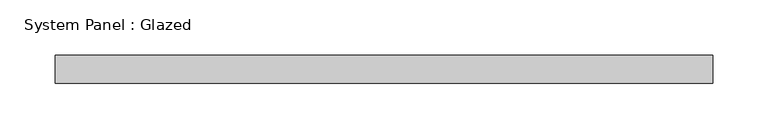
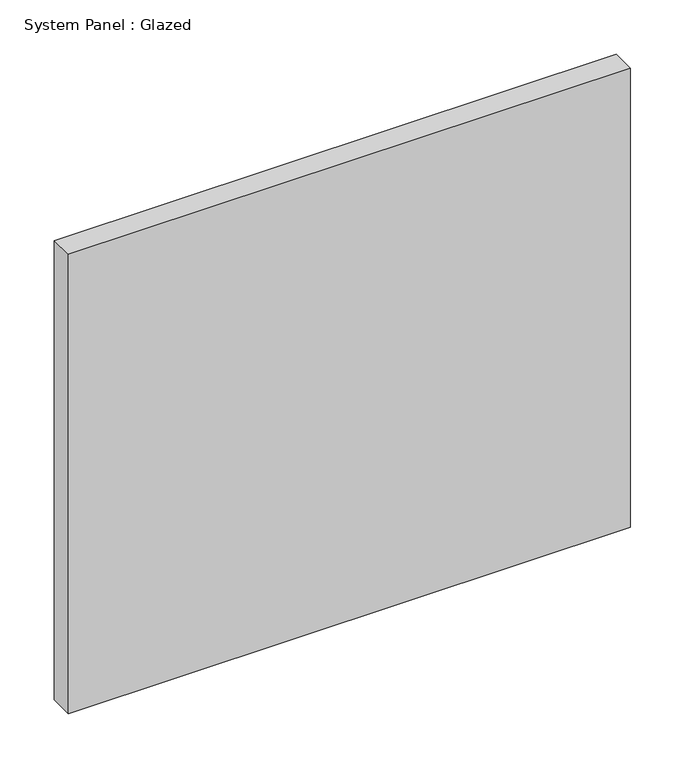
"""IFC4 building model written with IfcOpenShell, lengths in millimetres: plate geometry, System Panel : Glazed."""

from ifc_helpers import new_model, si_unit, origin, origin_with_axes, place, context, project, spatial, polyline, outline, extrude, source, transform, mapped, element, save


def system_panel_glazed_0805a858(model_context):
    return source(origin(), model_context, "Body", "SweptSolid", [
        extrude(outline(polyline([(297.7, -44.45), (-297.7, -44.45), (-297.7, -19.05), (297.7, -19.05), (297.7, -44.45)])), origin_with_axes(), (0.0, 0.0, 1.0), 514.35),
    ])


if __name__ == "__main__":
    model = new_model("IFC4")
    model_context = context("Model", 3, world=origin())
    ifc_project = project(units=[si_unit("LENGTHUNIT", "METRE", prefix="MILLI")], contexts=[model_context])
    site = spatial("IfcSite", under=ifc_project)
    building = spatial("IfcBuilding", under=site)
    placement = place(None, origin())
    system_panel_glazed_shape = system_panel_glazed_0805a858(model_context)
    element("IfcPlate", 1, ObjectType="System Panel : Glazed", at=placement, inside=building, context=model_context, shape_type="MappedRepresentation", body=[
        mapped(system_panel_glazed_shape, transform((0.0, 0.0, 0.0), x_axis=(1.0, 0.0, 0.0), y_axis=(0.0, 1.0, 0.0), z_axis=(0.0, 0.0, 1.0))),
    ])
    save(model, "model.ifc")
